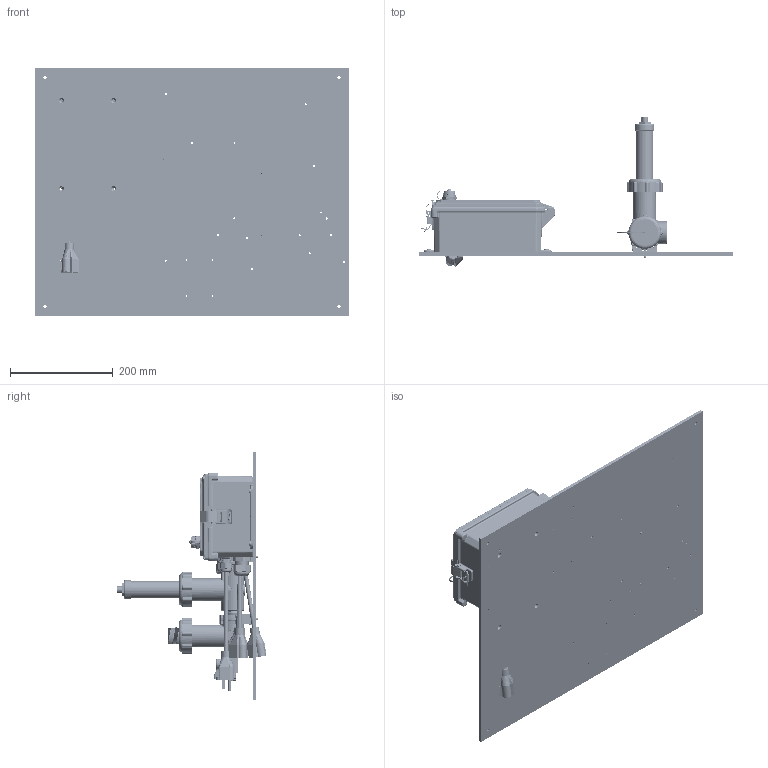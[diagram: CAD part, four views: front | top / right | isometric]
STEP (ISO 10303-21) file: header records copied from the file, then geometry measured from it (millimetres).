
FILE_DESCRIPTION (( 'STEP AP203' ), '1' );
FILE_NAME ('W600-CT-BD.STEP', '2018-03-09T15:25:27', ( '' ), ( '' ), 'SwSTEP 2.0', 'SolidWorks 2016', '' );
FILE_SCHEMA (( 'CONFIG_CONTROL_DESIGN' ));
Length unit declared in the file: inch
Products named in the file (65): ISA0022; ISA0020; ISA0014; ISA0018_3 Wire; ISA0016; IMS0006; W600 Shell; 191619-01; ISA0017; 1032_375H_insert; ISA0026; Nut for M20; ISA0025; 103910; IMS0023_30075T212; IMC0006; PCG-11 nut; IMC0002; IMC0010; 102444; 103803; 103859_Cord1; IMC0009_102879-01; 191576-INTERGRA; 103860_Cord1; 102906; 9912576-82-10; ISA0021; 9912562-82-10; IMS0012; 191584; 103861_without letter; IMS0011_4882K14; 103832; 103867; 103835; 103809; IMS0010; ISA0019_Plug; 103025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
Assembly tree (97 placements, depth 4):
  W600-CT-BD
    ISA0023
      IMS0013
      IMS0012
    IMC0009_102879-01
    IMC0002
    IMS0011_4882K14  x2
    IMC0004
    ISA0026
      IMC0003
      IMS0010
      IMS0006
      ISA0025
        IMC0006
        IMS0029  x2
    IMS0005
    IMS0006  x2
    IMC0001  x3
    IMS0033
    IMC0010
    IMS0023_30075T212  x2
    IMR0003
    W600 Shell
      ISA0011
        191576-INTERGRA
        1032_375H_insert  x2
        9912562-82-10
        9912571-82-10_95345A043  x2
        9912575-82-10_90631A007  x2
        102444
        9912576-82-10  x2
      191577-INTEGRA
      191584
      ISA0018_3 Wire  x2
        102907
        102903_102903
        102906
        103860_Cord1
        103861_without letter
      ISA0017
        103938
        103859_Cord1
        PCG-11 nut
      ISA0020
        102907
        103025  x6
        103004
        102903_102903
      ISA0019_Plug  x2
        103938
        102407
        PCG-11 nut
      ISA0021
        103946
        102407
        Nut for M20
      ISA0022
        103809
        103025  x3
        PCG-11 nut
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Bounding box: 609.6 x 289.71 x 482.6 mm (x, y, z)
Volume: 3579209.6 mm3; surface area: 1629287.9 mm2
Topology: 107 solids, 122 shells, 14382 faces, 37373 edges, 23544 vertices
Faces by surface type: plane 7815, cylinder 3271, bspline 2185, cone 867, torus 197, sphere 47
Entity records: 606958 total; most frequent: CARTESIAN_POINT 331361, ORIENTED_EDGE 60951, DIRECTION 47490, EDGE_CURVE 30495, VERTEX_POINT 19274, LINE 18512, VECTOR 18512, AXIS2_PLACEMENT_3D 14489
